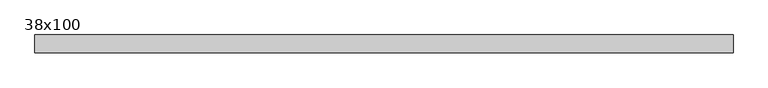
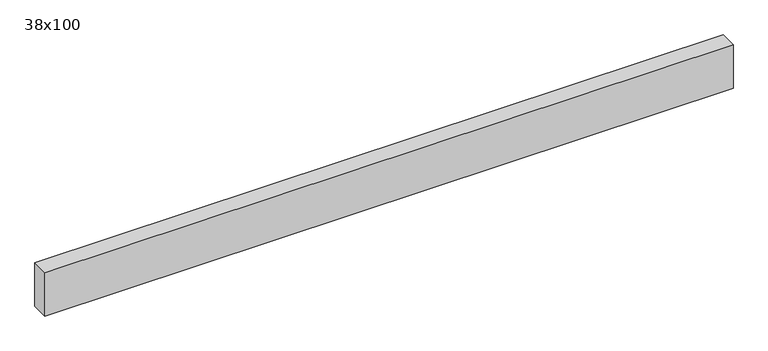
"""IFC4 building model written with IfcOpenShell, lengths in millimetres: beam geometry, Poutre - Bois de construction de dimensions courantes : 38x100."""

import ifcopenshell
import ifcopenshell.guid

model = None  # the IFC model being written
_history = None  # IfcOwnerHistory: only IFC2X3 demands one
_inside = {}  # id of a spatial element -> (the spatial element, [elements in it])
_under = {}  # id of a project, library or spatial element -> (it, [spatial elements below it])
_declared = {}  # id of a project -> (the project, [libraries it declares])
_typed = {}  # id of a type object -> (the type object, [elements of that type])
_made_of = {}  # id of a material, layer set ... -> (it, [elements and type objects made of it])


def new_model(schema):
    """Start an empty IFC model of exactly this schema.

    Asked for "IFC4X3", IfcOpenShell would pick the latest addendum, in which some entities
    have other attributes; the version numbers below select the first issue.
    IFC2X3 requires an IfcOwnerHistory on every rooted entity: one is made here for all.
    """
    global model, _history
    if schema == "IFC4X3":
        model = ifcopenshell.file(schema_version=(4, 3, 0, 0))
    else:
        model = ifcopenshell.file(schema=schema)
    _inside.clear()
    _under.clear()
    _declared.clear()
    _typed.clear()
    _made_of.clear()
    _history = None
    if model.schema == "IFC2X3":
        org = make("IfcOrganization", Name="unknown")
        user = make(
            "IfcPersonAndOrganization",
            ThePerson=make("IfcPerson", FamilyName="unknown"),
            TheOrganization=org,
        )
        app = make(
            "IfcApplication",
            ApplicationDeveloper=org,
            Version="unknown",
            ApplicationFullName="unknown",
            ApplicationIdentifier="unknown",
        )
        _history = make(
            "IfcOwnerHistory",
            OwningUser=user,
            OwningApplication=app,
            ChangeAction="ADDED",
            CreationDate=0,
        )
    return model


def make(cls, **values):
    """One entity of the class cls with the attributes given. An attribute that is None is left unset."""
    return model.create_entity(
        cls, **{name: value for name, value in values.items() if value is not None}
    )


def rooted(cls, **values):
    """An entity with a GlobalId (a new one), such as an element, a storey or a relation."""
    return make(cls, GlobalId=ifcopenshell.guid.new(), OwnerHistory=_history, **values)


def si_unit(unit_type, name, prefix=None):
    """IfcSIUnit, for example si_unit("LENGTHUNIT", "METRE", prefix="MILLI")."""
    return make("IfcSIUnit", UnitType=unit_type, Prefix=prefix, Name=name)


def assignment(units):
    """IfcUnitAssignment: the units of a project."""
    return None if units is None else make("IfcUnitAssignment", Units=units)


def point(xyz):
    """IfcCartesianPoint."""
    return None if xyz is None else make("IfcCartesianPoint", Coordinates=xyz)


def direction(xyz):
    """IfcDirection."""
    return None if xyz is None else make("IfcDirection", DirectionRatios=xyz)


def frame(location, z_axis=None, x_axis=None):
    """IfcAxis2Placement3D, a coordinate frame: its origin and axes. An axis left out is left unset."""
    return make(
        "IfcAxis2Placement3D",
        Location=point(location),
        Axis=direction(z_axis),
        RefDirection=direction(x_axis),
    )


def origin():
    """The frame at (0, 0, 0) with its axes left unset."""
    return frame((0.0, 0.0, 0.0))


def place(relative_to, where):
    """IfcLocalPlacement: puts the frame where relative to a parent placement (None: the world)."""
    return make(
        "IfcLocalPlacement", PlacementRelTo=relative_to, RelativePlacement=where
    )


def context(
    kind, dimensions, precision=None, world=None, true_north=None, identifier=None
):
    """IfcGeometricRepresentationContext, for example the 3D "Model" context."""
    return make(
        "IfcGeometricRepresentationContext",
        ContextIdentifier=identifier,
        ContextType=kind,
        CoordinateSpaceDimension=dimensions,
        Precision=precision,
        WorldCoordinateSystem=world,
        TrueNorth=true_north,
    )


def project(units=None, contexts=None):
    """IfcProject with its units and contexts."""
    return rooted(
        "IfcProject",
        Name="project",
        RepresentationContexts=contexts,
        UnitsInContext=assignment(units),
    )


def spatial(cls, under=None, at=None, **own):
    """A site, building, storey or space (cls), placed at a placement, below another one or the project."""
    s = rooted(cls, ObjectPlacement=at, **own)
    if under is not None:
        _under.setdefault(under.id(), (under, []))[1].append(s)
    return s


def polyline(points):
    """IfcPolyline through the points."""
    return make("IfcPolyline", Points=[point(p) for p in points])


def outline(outer, holes=None, kind="AREA"):
    """IfcArbitraryClosedProfileDef: a profile drawn as a closed curve; with holes, ...WithVoids."""
    if holes is None:
        return make("IfcArbitraryClosedProfileDef", ProfileType=kind, OuterCurve=outer)
    return make(
        "IfcArbitraryProfileDefWithVoids",
        ProfileType=kind,
        OuterCurve=outer,
        InnerCurves=holes,
    )


def extrude(swept, where, along, depth):
    """IfcExtrudedAreaSolid: the profile swept, set in the frame where, extruded along a direction by depth."""
    return make(
        "IfcExtrudedAreaSolid",
        SweptArea=swept,
        Position=where,
        ExtrudedDirection=direction(along),
        Depth=depth,
    )


def shape(context_of_items, identifier, shape_type, items):
    """IfcShapeRepresentation: the items that make up one representation, for example the "Body"."""
    return make(
        "IfcShapeRepresentation",
        ContextOfItems=context_of_items,
        RepresentationIdentifier=identifier,
        RepresentationType=shape_type,
        Items=items,
    )


def source(mapping_origin, context_of_items, identifier, shape_type, items):
    """IfcRepresentationMap: a shape defined once, which mapped items show again and again."""
    return make(
        "IfcRepresentationMap",
        MappingOrigin=mapping_origin,
        MappedRepresentation=shape(context_of_items, identifier, shape_type, items),
    )


def transform(
    local_origin,
    x_axis=None,
    y_axis=None,
    z_axis=None,
    scale=None,
    scale2=None,
    scale3=None,
    uniform=True,
):
    """IfcCartesianTransformationOperator3D, or its non-uniform kind. x_axis, y_axis, z_axis: its Axis1, 2, 3."""
    if uniform:
        return make(
            "IfcCartesianTransformationOperator3D",
            Axis1=direction(x_axis),
            Axis2=direction(y_axis),
            LocalOrigin=point(local_origin),
            Scale=scale,
            Axis3=direction(z_axis),
        )
    return make(
        "IfcCartesianTransformationOperator3DnonUniform",
        Axis1=direction(x_axis),
        Axis2=direction(y_axis),
        LocalOrigin=point(local_origin),
        Scale=scale,
        Axis3=direction(z_axis),
        Scale2=scale2,
        Scale3=scale3,
    )


def mapped(mapping_source, mapping_target):
    """IfcMappedItem: shows the shape of a source again, moved by a transform."""
    return make(
        "IfcMappedItem", MappingSource=mapping_source, MappingTarget=mapping_target
    )


def made_of(thing, what):
    """Note that an element or type object is made of a material, layer set ...; save() writes the relation."""
    if what is not None:
        _made_of.setdefault(what.id(), (what, []))[1].append(thing)
    return thing


def element(
    cls,
    number,
    at=None,
    inside=None,
    cuts=None,
    type_object=None,
    material=None,
    context=None,
    identifier="Body",
    shape_type=None,
    held_by="IfcProductDefinitionShape",
    body=None,
    shapes=None,
    **own,
):
    """One element of the class cls, such as IfcWall. Its Tag is "e" and its number.

    at: its placement. inside: the storey or other place that contains it. cuts: it is an
    opening in that element (IfcRelVoidsElement). A single representation is given by context,
    identifier, shape_type and body (its items); several are given by shapes. held_by: the class
    of the entity that holds the representations. save() writes the other relations.
    """
    e = rooted(cls, Tag="e%d" % number, ObjectPlacement=at, **own)
    if body is not None:
        shapes = [shape(context, identifier, shape_type, body)]
    if shapes is not None:
        e.Representation = make(held_by, Representations=shapes)
    if inside is not None:
        _inside.setdefault(inside.id(), (inside, []))[1].append(e)
    if cuts is not None:
        rooted(
            "IfcRelVoidsElement", RelatingBuildingElement=cuts, RelatedOpeningElement=e
        )
    if type_object is not None:
        _typed.setdefault(type_object.id(), (type_object, []))[1].append(e)
    return made_of(e, material)


def aggregate(whole, parts):
    """IfcRelAggregates: a whole, such as a stair, and the parts it consists of."""
    return rooted("IfcRelAggregates", RelatingObject=whole, RelatedObjects=parts)


def save(model, path):
    """Write the relations noted so far, then the file.

    IfcRelAggregates (storeys below a building ...), IfcRelContainedInSpatialStructure (elements
    in a storey), IfcRelDefinesByType, IfcRelAssociatesMaterial and IfcRelDeclares: one each for
    every whole, place, type object, material and project.
    """
    for whole, parts in _under.values():
        aggregate(whole, parts)
    for where, things in _inside.values():
        rooted(
            "IfcRelContainedInSpatialStructure",
            RelatedElements=things,
            RelatingStructure=where,
        )
    for kind, things in _typed.values():
        rooted("IfcRelDefinesByType", RelatedObjects=things, RelatingType=kind)
    for what, things in _made_of.values():
        rooted("IfcRelAssociatesMaterial", RelatedObjects=things, RelatingMaterial=what)
    for by, libraries in _declared.values():
        rooted("IfcRelDeclares", RelatingContext=by, RelatedDefinitions=libraries)
    model.write(path)


def beam_38x100_39a42505(model_context):
    return source(origin(), model_context, "Body", "SweptSolid", [
        extrude(outline(polyline([(701.5, 19.05), (701.5, -19.05), (-802.5, -19.05), (-802.5, 19.05), (701.5, 19.05)])), frame((0.0, 0.0, -50.0), z_axis=(0.0, 0.0, 1.0), x_axis=(1.0, 0.0, 0.0)), (0.0, 0.0, 1.0), 100.0),
    ])


if __name__ == "__main__":
    model = new_model("IFC4")
    model_context = context("Model", 3, world=origin())
    ifc_project = project(units=[si_unit("LENGTHUNIT", "METRE", prefix="MILLI")], contexts=[model_context])
    site = spatial("IfcSite", under=ifc_project)
    building = spatial("IfcBuilding", under=site)
    placement = place(None, origin())
    beam_38x100_shape = beam_38x100_39a42505(model_context)
    element("IfcBeam", 1, ObjectType="Poutre - Bois de construction de dimensions courantes : 38x100", at=placement, inside=building, context=model_context, shape_type="MappedRepresentation", body=[
        mapped(beam_38x100_shape, transform((0.0, 0.0, 0.0), x_axis=(1.0, 0.0, 0.0), y_axis=(0.0, 1.0, 0.0), z_axis=(0.0, 0.0, 1.0))),
    ])
    save(model, "model.ifc")
